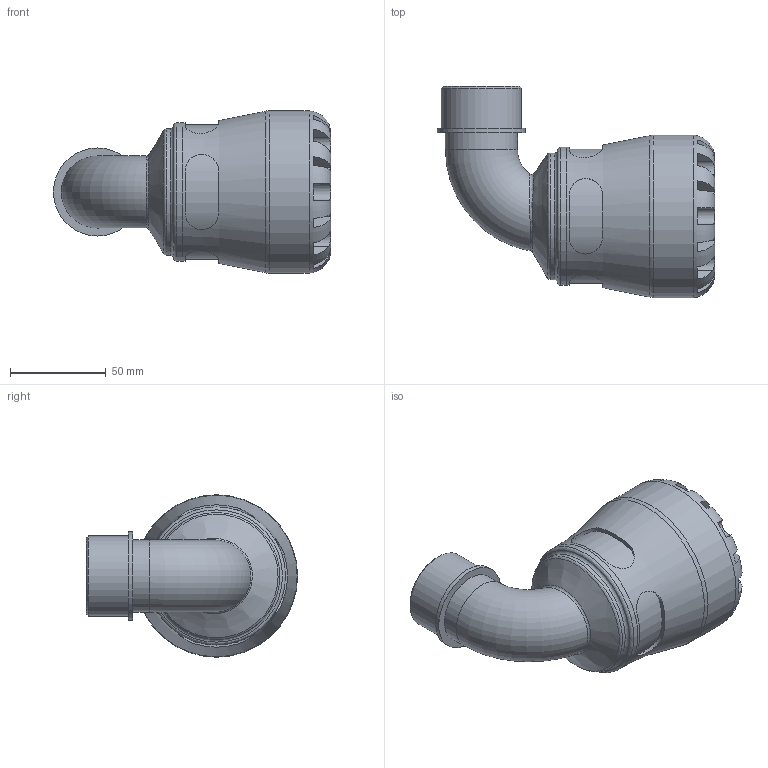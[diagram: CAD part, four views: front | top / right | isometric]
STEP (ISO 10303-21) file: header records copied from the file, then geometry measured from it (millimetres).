
FILE_DESCRIPTION(/* description */ ('PLASSON 90° ELBOW WITH THREADED MALE OFFTAKE 50-1.1/4" SERIES 1'),/* implementation_level */ '2;1');
FILE_NAME(/* name */ 'C:\Dropbox\KIMPROJECTS-Inventor\99-16-3568-Processing\S1\27.01.19\1085\108500050013_198500050013.ipt.stp',/* time_stamp */ '2019-01-27T09:13:40+02:00',/* author */ ('KIM'),/* organization */ (''),/* preprocessor_version */ 'ST-DEVELOPER v15.6',/* originating_system */ 'Autodesk Inventor 2015',/* authorisation */ '');
FILE_SCHEMA (('AUTOMOTIVE_DESIGN { 1 0 10303 214 3 1 1 }'));
Length unit declared in the file: millimetre
Products named in the file (1): 108500050013_198500050013
Bounding box: 145.05 x 110.5 x 85 mm (x, y, z)
Volume: 305488.2 mm3; surface area: 63756.7 mm2
Topology: 1 solids, 1 shells, 110 faces, 269 edges, 167 vertices
Faces by surface type: plane 61, cylinder 37, torus 7, bspline 3, cone 2
Full cylindrical faces by diameter (mm): 29.337 x2, 37.719 x1, 41.91 x1, 46.101 x1, 50 x1, 66.3 x1, 72.25 x1, 85 x1
Entity records: 4322 total; most frequent: CARTESIAN_POINT 1782, ORIENTED_EDGE 488, DIRECTION 487, EDGE_CURVE 244, AXIS2_PLACEMENT_3D 203, VERTEX_POINT 161, EDGE_LOOP 137, STYLED_ITEM 111
